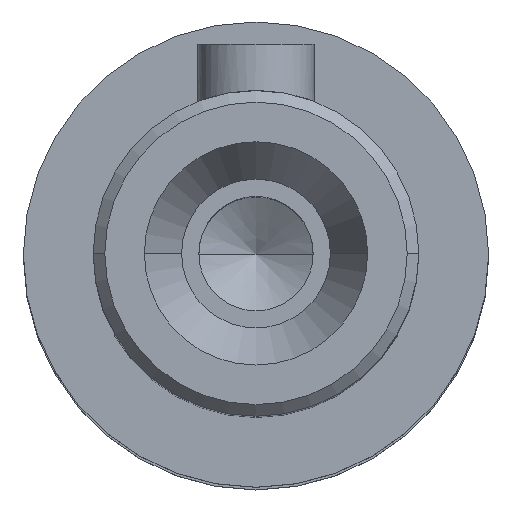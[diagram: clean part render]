
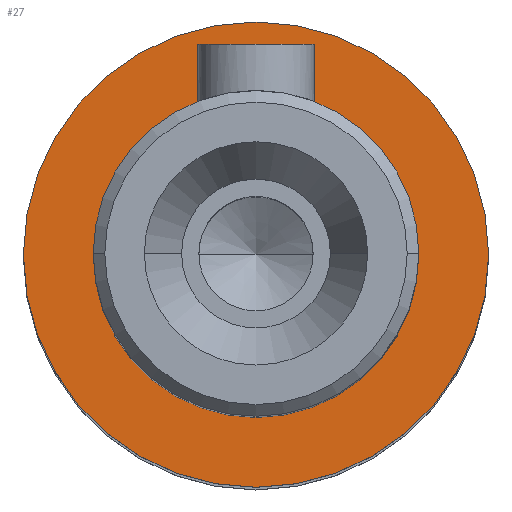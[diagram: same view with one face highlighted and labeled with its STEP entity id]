
A CAD part, top view. The second image highlights one B-rep face of the part: STEP entity #27.
In plain terms, the highlighted planar face has unit normal (0, 0, 1) as drawn and (1, 0, 0) by its records, which use the part's own axes.
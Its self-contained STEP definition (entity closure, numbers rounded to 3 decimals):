
#27=ADVANCED_FACE('',(#66,#54),#469,.T.);
#54=FACE_BOUND('',#103,.T.);
#66=FACE_OUTER_BOUND('',#102,.T.);
#102=EDGE_LOOP('',(#166,#167));
#103=EDGE_LOOP('',(#168,#169));
#166=ORIENTED_EDGE('',*,*,#308,.F.);
#167=ORIENTED_EDGE('',*,*,#269,.F.);
#168=ORIENTED_EDGE('',*,*,#297,.F.);
#169=ORIENTED_EDGE('',*,*,#258,.F.);
#258=EDGE_CURVE('',#423,#445,#320,.T.);
#269=EDGE_CURVE('',#431,#453,#327,.T.);
#297=EDGE_CURVE('',#445,#423,#340,.T.);
#308=EDGE_CURVE('',#453,#431,#347,.T.);
#320=TRIMMED_CURVE($,#354,(#966),(#967),.T.,.CARTESIAN.);
#327=TRIMMED_CURVE($,#361,(#995),(#996),.T.,.CARTESIAN.);
#340=TRIMMED_CURVE($,#374,(#1074),(#1075),.T.,.CARTESIAN.);
#347=TRIMMED_CURVE($,#381,(#1103),(#1104),.T.,.CARTESIAN.);
#354=CIRCLE('',#694,7.);
#361=CIRCLE('',#701,10.);
#374=CIRCLE('',#714,7.);
#381=CIRCLE('',#721,10.);
#423=VERTEX_POINT('',#925);
#431=VERTEX_POINT('',#933);
#445=VERTEX_POINT('',#947);
#453=VERTEX_POINT('',#955);
#469=PLANE('',#677);
#677=AXIS2_PLACEMENT_3D('',#843,#743,$);
#694=AXIS2_PLACEMENT_3D($,#965,#760,#761);
#701=AXIS2_PLACEMENT_3D($,#994,#774,#775);
#714=AXIS2_PLACEMENT_3D($,#1073,#800,#801);
#721=AXIS2_PLACEMENT_3D($,#1102,#814,#815);
#743=DIRECTION('',(1.,0.,0.));
#760=DIRECTION('',(1.,0.,0.));
#761=DIRECTION('',(0.,0.,-1.));
#774=DIRECTION('',(-1.,0.,0.));
#775=DIRECTION('',(0.,0.,-1.));
#800=DIRECTION('',(1.,0.,0.));
#801=DIRECTION('',(0.,0.,1.));
#814=DIRECTION('',(-1.,0.,0.));
#815=DIRECTION('',(0.,0.,1.));
#843=CARTESIAN_POINT('',(34.,-12.06,-12.06));
#925=CARTESIAN_POINT('',(34.,0.,-7.));
#933=CARTESIAN_POINT('',(34.,0.,-10.));
#947=CARTESIAN_POINT('',(34.,0.,7.));
#955=CARTESIAN_POINT('',(34.,0.,10.));
#965=CARTESIAN_POINT('',(34.,0.,0.));
#966=CARTESIAN_POINT('',(34.,0.,-7.));
#967=CARTESIAN_POINT('',(34.,0.,7.));
#994=CARTESIAN_POINT('',(34.,0.,0.));
#995=CARTESIAN_POINT('',(34.,0.,-10.));
#996=CARTESIAN_POINT('',(34.,0.,10.));
#1073=CARTESIAN_POINT('',(34.,0.,0.));
#1074=CARTESIAN_POINT('',(34.,0.,7.));
#1075=CARTESIAN_POINT('',(34.,0.,-7.));
#1102=CARTESIAN_POINT('',(34.,0.,0.));
#1103=CARTESIAN_POINT('',(34.,0.,10.));
#1104=CARTESIAN_POINT('',(34.,0.,-10.));
